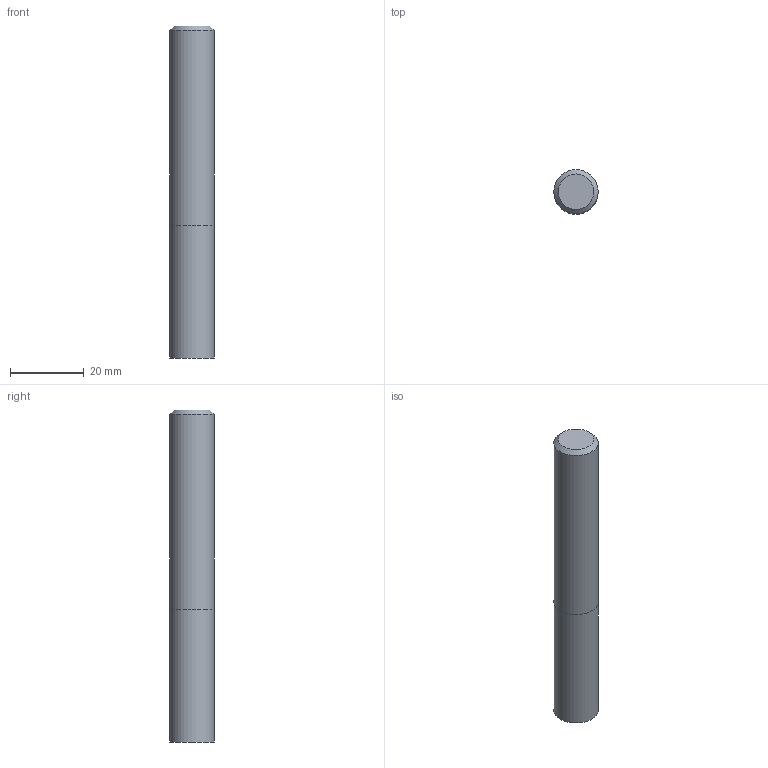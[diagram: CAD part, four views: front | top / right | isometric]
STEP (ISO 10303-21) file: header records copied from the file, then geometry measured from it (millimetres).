
FILE_DESCRIPTION((''),'2;1');
FILE_NAME('C:\Users\nsx150\AppData\Local\Temp\Mastercam 2021\Y59DX2IYLB\TEMP.step','2021-04-08T17:10:00',(''),(''),'STEP Write','Mastercam 2021 ... CNC Software, Inc.','');
FILE_SCHEMA(('AUTOMOTIVE_DESIGN'));
Length unit declared in the file: millimetre
Products named in the file (1): None
Bounding box: 12 x 12 x 90 mm (x, y, z)
Volume: 10153.4 mm3; surface area: 3816.9 mm2
Topology: 2 solids, 2 shells, 7 faces, 8 edges, 5 vertices
Faces by surface type: plane 4, cylinder 2, cone 1
Full cylindrical faces by diameter (mm): 12 x2
Entity records: 169 total; most frequent: DIRECTION 28, CARTESIAN_POINT 19, AXIS2_PLACEMENT_3D 14, ORIENTED_EDGE 10, EDGE_LOOP 10, STYLED_ITEM 10, ADVANCED_FACE 7, VERTEX_POINT 5
